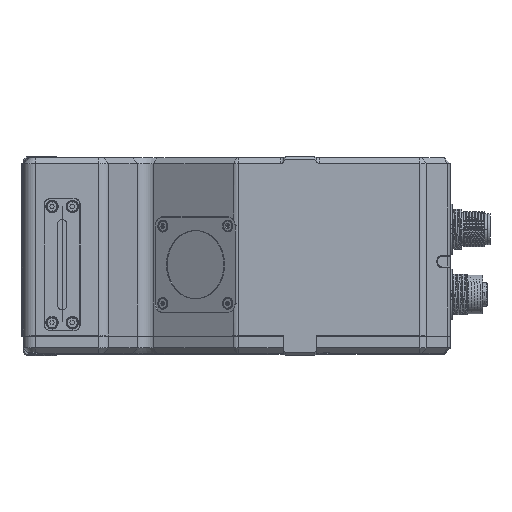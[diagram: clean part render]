
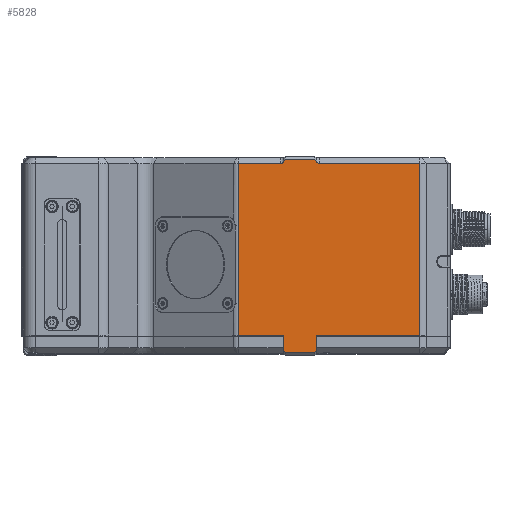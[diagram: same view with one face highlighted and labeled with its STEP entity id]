
A CAD part, top view. The second image highlights one B-rep face of the part: STEP entity #5828.
In plain terms, the highlighted planar face has unit normal (0, 0, 1).
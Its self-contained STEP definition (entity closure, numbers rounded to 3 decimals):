
#438=CARTESIAN_POINT('',(15.75,31.793,54.75));
#439=CARTESIAN_POINT('',(15.71,31.678,54.75));
#440=CARTESIAN_POINT('',(15.612,31.473,54.75));
#441=CARTESIAN_POINT('',(15.419,31.23,54.75));
#442=CARTESIAN_POINT('',(15.217,31.086,54.75));
#443=CARTESIAN_POINT('',(15.024,31.015,54.75));
#444=CARTESIAN_POINT('',(14.913,31.,54.75));
#445=CARTESIAN_POINT('',(14.852,31.,54.75));
#741=DIRECTION('',(-0.577,0.816,0.));
#742=VECTOR('',#741,0.866);
#743=CARTESIAN_POINT('',(26.75,31.793,54.75));
#744=LINE('',#743,#742);
#745=DIRECTION('',(1.,0.,0.));
#746=VECTOR('',#745,33.859);
#747=CARTESIAN_POINT('',(27.648,31.,54.75));
#748=LINE('',#747,#746);
#749=DIRECTION('',(0.,1.,0.));
#750=VECTOR('',#749,58.);
#751=CARTESIAN_POINT('',(61.507,-27.,54.75));
#752=LINE('',#751,#750);
#753=DIRECTION('',(1.,0.,0.));
#754=VECTOR('',#753,34.757);
#755=CARTESIAN_POINT('',(26.75,-27.,54.75));
#756=LINE('',#755,#754);
#757=DIRECTION('',(0.,-1.,0.));
#758=VECTOR('',#757,4.793);
#759=CARTESIAN_POINT('',(26.75,-27.,54.75));
#760=LINE('',#759,#758);
#761=DIRECTION('',(0.577,0.816,0.));
#762=VECTOR('',#761,0.866);
#763=CARTESIAN_POINT('',(26.25,-32.5,54.75));
#764=LINE('',#763,#762);
#765=DIRECTION('',(-1.,0.,0.));
#766=VECTOR('',#765,10.);
#767=CARTESIAN_POINT('',(26.25,-32.5,54.75));
#768=LINE('',#767,#766);
#769=DIRECTION('',(0.577,-0.816,0.));
#770=VECTOR('',#769,0.866);
#771=CARTESIAN_POINT('',(15.75,-31.793,54.75));
#772=LINE('',#771,#770);
#773=DIRECTION('',(1.,0.,0.));
#774=VECTOR('',#773,15.231);
#775=CARTESIAN_POINT('',(0.519,-27.,54.75));
#776=LINE('',#775,#774);
#777=DIRECTION('',(1.,0.,0.));
#778=VECTOR('',#777,14.333);
#779=CARTESIAN_POINT('',(0.519,31.,54.75));
#780=LINE('',#779,#778);
#781=DIRECTION('',(-0.577,-0.816,0.));
#782=VECTOR('',#781,0.866);
#783=CARTESIAN_POINT('',(16.25,32.5,54.75));
#784=LINE('',#783,#782);
#785=DIRECTION('',(1.,0.,0.));
#786=VECTOR('',#785,10.);
#787=CARTESIAN_POINT('',(16.25,32.5,54.75));
#788=LINE('',#787,#786);
#857=DIRECTION('',(0.,-1.,0.));
#858=VECTOR('',#857,58.);
#859=CARTESIAN_POINT('',(0.519,31.,54.75));
#860=LINE('',#859,#858);
#1979=CARTESIAN_POINT('',(27.648,31.,54.75));
#1980=CARTESIAN_POINT('',(27.587,31.,54.75));
#1981=CARTESIAN_POINT('',(27.476,31.015,54.75));
#1982=CARTESIAN_POINT('',(27.283,31.086,54.75));
#1983=CARTESIAN_POINT('',(27.081,31.23,54.75));
#1984=CARTESIAN_POINT('',(26.888,31.473,54.75));
#1985=CARTESIAN_POINT('',(26.79,31.678,54.75));
#1986=CARTESIAN_POINT('',(26.75,31.793,54.75));
#2929=DIRECTION('',(0.,-1.,0.));
#2930=VECTOR('',#2929,4.793);
#2931=CARTESIAN_POINT('',(15.75,-27.,54.75));
#2932=LINE('',#2931,#2930);
#4142=CARTESIAN_POINT('',(61.507,-27.,54.75));
#4144=VERTEX_POINT('',#4142);
#4149=CARTESIAN_POINT('',(0.519,-27.,54.75));
#4151=VERTEX_POINT('',#4149);
#4170=CARTESIAN_POINT('',(15.75,-27.,54.75));
#4171=VERTEX_POINT('',#4170);
#4172=CARTESIAN_POINT('',(26.75,-27.,54.75));
#4173=VERTEX_POINT('',#4172);
#4705=CARTESIAN_POINT('',(61.507,31.,54.75));
#4706=VERTEX_POINT('',#4705);
#4712=CARTESIAN_POINT('',(0.519,31.,54.75));
#4714=VERTEX_POINT('',#4712);
#4772=CARTESIAN_POINT('',(26.25,32.5,54.75));
#4774=VERTEX_POINT('',#4772);
#4785=CARTESIAN_POINT('',(16.25,32.5,54.75));
#4786=VERTEX_POINT('',#4785);
#4803=CARTESIAN_POINT('',(26.25,-32.5,54.75));
#4804=CARTESIAN_POINT('',(26.75,-31.793,54.75));
#4805=VERTEX_POINT('',#4803);
#4806=VERTEX_POINT('',#4804);
#4823=CARTESIAN_POINT('',(15.75,-31.793,54.75));
#4824=CARTESIAN_POINT('',(16.25,-32.5,54.75));
#4825=VERTEX_POINT('',#4823);
#4826=VERTEX_POINT('',#4824);
#4860=CARTESIAN_POINT('',(14.852,31.,54.75));
#4862=VERTEX_POINT('',#4860);
#4864=CARTESIAN_POINT('',(15.75,31.793,54.75));
#4866=VERTEX_POINT('',#4864);
#4867=CARTESIAN_POINT('',(27.648,31.,54.75));
#4869=VERTEX_POINT('',#4867);
#4871=CARTESIAN_POINT('',(26.75,31.793,54.75));
#4873=VERTEX_POINT('',#4871);
#5794=CARTESIAN_POINT('',(-71.75,-33.,54.75));
#5795=DIRECTION('',(0.,0.,1.));
#5796=DIRECTION('',(1.,0.,0.));
#5797=AXIS2_PLACEMENT_3D('',#5794,#5795,#5796);
#5798=PLANE('',#5797);
#5800=ORIENTED_EDGE('',*,*,#5799,.F.);
#5802=ORIENTED_EDGE('',*,*,#5801,.F.);
#5804=ORIENTED_EDGE('',*,*,#5803,.T.);
#5806=ORIENTED_EDGE('',*,*,#5805,.F.);
#5808=ORIENTED_EDGE('',*,*,#5807,.F.);
#5809=ORIENTED_EDGE('',*,*,#5734,.T.);
#5810=ORIENTED_EDGE('',*,*,#5753,.F.);
#5812=ORIENTED_EDGE('',*,*,#5811,.T.);
#5814=ORIENTED_EDGE('',*,*,#5813,.F.);
#5816=ORIENTED_EDGE('',*,*,#5815,.F.);
#5818=ORIENTED_EDGE('',*,*,#5817,.F.);
#5820=ORIENTED_EDGE('',*,*,#5819,.F.);
#5821=ORIENTED_EDGE('',*,*,#5352,.T.);
#5822=ORIENTED_EDGE('',*,*,#5368,.F.);
#5823=ORIENTED_EDGE('',*,*,#5383,.F.);
#5825=ORIENTED_EDGE('',*,*,#5824,.T.);
#5826=EDGE_LOOP('',(#5800,#5802,#5804,#5806,#5808,#5809,#5810,#5812,#5814,#5816,
#5818,#5820,#5821,#5822,#5823,#5825));
#5827=FACE_OUTER_BOUND('',#5826,.F.);
#5828=ADVANCED_FACE('',(#5827),#5798,.T.);
#446=B_SPLINE_CURVE_WITH_KNOTS('',3,(#438,#439,#440,#441,#442,#443,#444,#445),
.UNSPECIFIED.,.F.,.F.,(4,1,1,1,1,4),(0.,0.25,0.5,0.75,0.875,1.),
.UNSPECIFIED.);
#1987=B_SPLINE_CURVE_WITH_KNOTS('',3,(#1979,#1980,#1981,#1982,#1983,#1984,#1985,
#1986),.UNSPECIFIED.,.F.,.F.,(4,1,1,1,1,4),(0.,0.125,0.25,0.5,0.75,
1.),.UNSPECIFIED.);
#5352=EDGE_CURVE('',#4714,#4862,#780,.T.);
#5368=EDGE_CURVE('',#4866,#4862,#446,.T.);
#5383=EDGE_CURVE('',#4786,#4866,#784,.T.);
#5734=EDGE_CURVE('',#4173,#4806,#760,.T.);
#5753=EDGE_CURVE('',#4805,#4806,#764,.T.);
#5799=EDGE_CURVE('',#4873,#4774,#744,.T.);
#5801=EDGE_CURVE('',#4869,#4873,#1987,.T.);
#5803=EDGE_CURVE('',#4869,#4706,#748,.T.);
#5805=EDGE_CURVE('',#4144,#4706,#752,.T.);
#5807=EDGE_CURVE('',#4173,#4144,#756,.T.);
#5811=EDGE_CURVE('',#4805,#4826,#768,.T.);
#5813=EDGE_CURVE('',#4825,#4826,#772,.T.);
#5815=EDGE_CURVE('',#4171,#4825,#2932,.T.);
#5817=EDGE_CURVE('',#4151,#4171,#776,.T.);
#5819=EDGE_CURVE('',#4714,#4151,#860,.T.);
#5824=EDGE_CURVE('',#4786,#4774,#788,.T.);
